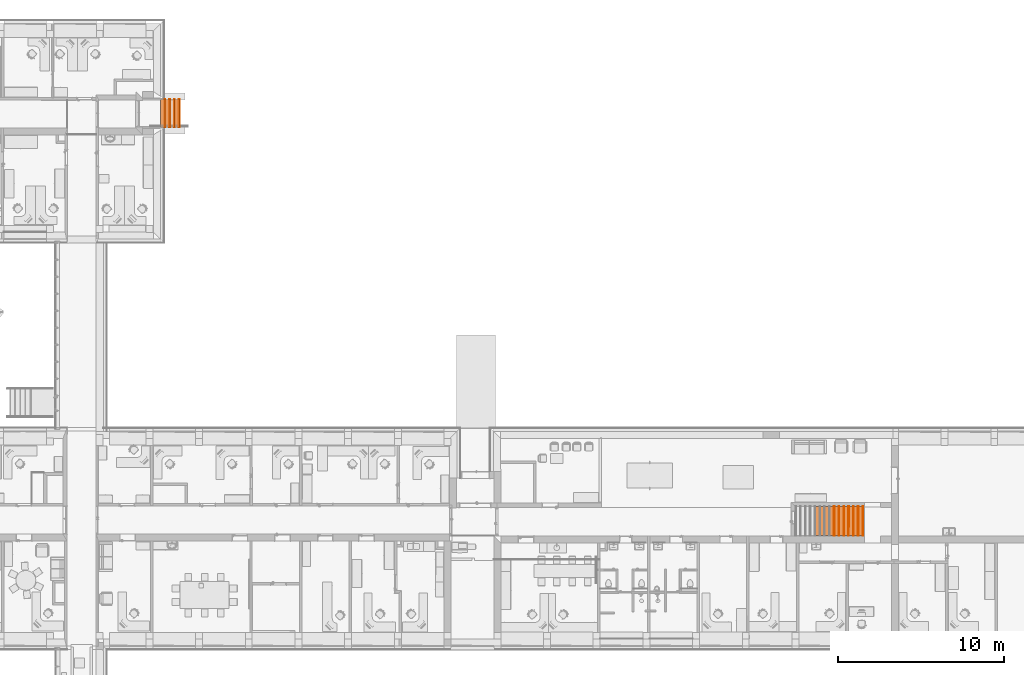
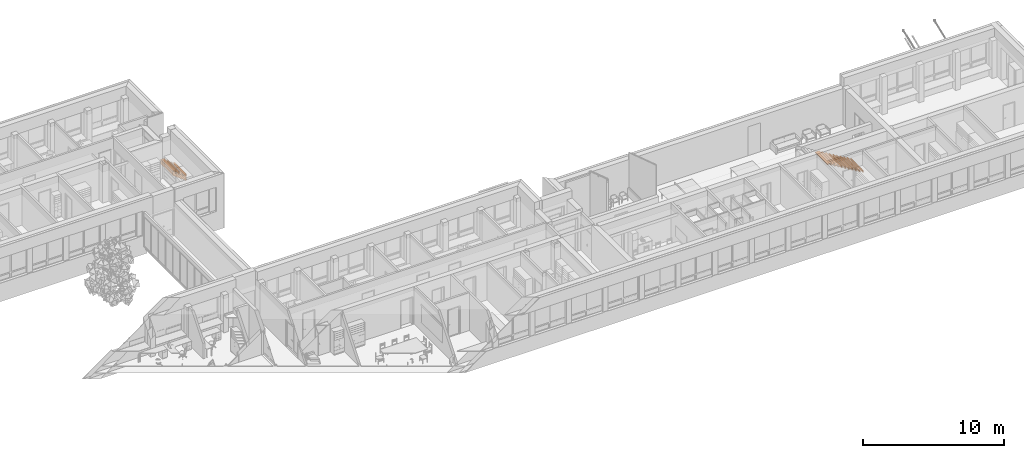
# One storey, part 193 of 194: 25 proxies, 2 elements without a shape of their own.
"""IFC2X3 building model written with IfcOpenShell, lengths in millimetres."""

from ifc_helpers import new_model, entity, si_unit, converted_unit, derived_unit, money_unit, direction, frame, origin_with_axes, place, context, subcontext, project, spatial, faceted_brep, material, type_object, element, aggregate, save


model = new_model("IFC2X3")

# Units and contexts
model_context = context("Model", 3, precision=1e-05, world=origin_with_axes(), true_north=direction((0.0, 1.0)))
body_context = subcontext(model_context, "Body", "Model", "MODEL_VIEW")
ifc_project = project(units=[si_unit("LENGTHUNIT", "METRE", prefix="MILLI"), si_unit("AREAUNIT", "SQUARE_METRE"), si_unit("VOLUMEUNIT", "CUBIC_METRE"), converted_unit("PLANEANGLEUNIT", "DEGREE", entity("IfcPlaneAngleMeasure", 0.0174532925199), si_unit("PLANEANGLEUNIT", "RADIAN"), dimensions=[0, 0, 0, 0, 0, 0, 0]), si_unit("SOLIDANGLEUNIT", "STERADIAN"), money_unit("EUR"), converted_unit("TIMEUNIT", "Year", entity("IfcTimeMeasure", 31556926.0), si_unit("TIMEUNIT", "SECOND"), dimensions=[0, 0, 1, 0, 0, 0, 0]), si_unit("MASSUNIT", "GRAM", prefix="KILO"), si_unit("THERMODYNAMICTEMPERATUREUNIT", "DEGREE_CELSIUS"), si_unit("LUMINOUSINTENSITYUNIT", "LUMEN"), si_unit("ENERGYUNIT", "JOULE", prefix="MEGA"), derived_unit("THERMALCONDUCTANCEUNIT", [(si_unit("POWERUNIT", "WATT"), 1), (si_unit("LENGTHUNIT", "METRE"), -1), (si_unit("THERMODYNAMICTEMPERATUREUNIT", "KELVIN"), -1)]), derived_unit("SPECIFICHEATCAPACITYUNIT", [(si_unit("ENERGYUNIT", "JOULE"), 1), (si_unit("MASSUNIT", "GRAM", prefix="KILO"), -1), (si_unit("THERMODYNAMICTEMPERATUREUNIT", "KELVIN"), -1)]), derived_unit("MASSDENSITYUNIT", [(si_unit("MASSUNIT", "GRAM", prefix="KILO"), 1), (si_unit("VOLUMEUNIT", "CUBIC_METRE"), -1)])], contexts=[model_context])

# Site, building, storey
site_placement = place(None, origin_with_axes())
site = spatial("IfcSite", under=ifc_project, at=site_placement, Name="Site", CompositionType="ELEMENT")
building_placement = place(site_placement, origin_with_axes())
building = spatial("IfcBuilding", under=site, at=building_placement, Name="Building", CompositionType="ELEMENT")
storey_placement = place(building_placement, frame((0.0, 0.0, 3000.0), z_axis=(0.0, 0.0, 1.0), x_axis=(1.0, 0.0, 0.0)))
storey = spatial("IfcBuildingStorey", under=building, at=storey_placement, Name="2 KORRUS", CompositionType="ELEMENT", Elevation=3000.0)

# Stair, proxy
stair_1_placement = place(storey_placement, frame((44781.1711957, 65661.0237237, -870.0), z_axis=(0.0, 0.0, 1.0), x_axis=(1.0, 0.0, 0.0)))
stair_1 = element("IfcStair", 1, at=stair_1_placement, inside=storey, Name="STAIR - 002", ShapeType="NOTDEFINED")
ifc_material = material(Name="Betoon - Ol.Olev konstruktsioon")
building_element_proxy_type_1 = type_object("IfcBuildingElementProxyType", Name="BETOON TREPP", PredefinedType="NOTDEFINED")
proxy_1_placement = place(stair_1_placement, origin_with_axes())
proxy_1 = element("IfcBuildingElementProxy", 2, at=proxy_1_placement, type_object=building_element_proxy_type_1, material=ifc_material, Name="Betoon - Ol.Olev konstruktsioon;  Objekti nimi:", context=body_context, shape_type="Brep", body=[
    faceted_brep([(0.0, 0.0, -70.0), (0.0, 0.0, -381.247973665), (0.395978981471, 1699.99995388, -381.247973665), (0.395978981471, 1699.99995388, -70.0), (-96.6666640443, 0.0225164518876, -308.747973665), (-48.3333320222, 0.0112582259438, -344.997973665), (-81.6639626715, 0.0190191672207, -70.0), (-23.3850148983, 0.00544626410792, 147.5), (-371.663954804, 0.0865685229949, 147.5), (-313.385007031, 0.0729956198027, 365.0), (-661.663946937, 0.154117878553, 365.0), (-603.384999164, 0.140544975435, 582.5), (-951.66393907, 0.221669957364, 582.5), (-893.384991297, 0.20809511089, 800.0), (-1159.99996853, 0.270197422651, 800.0), (-1159.99996853, 0.270185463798, 488.752026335), (-1111.66663651, 0.258927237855, 452.502026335), (-1063.33330449, 0.247669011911, 416.252026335), (-1014.99997247, 0.236410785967, 380.002026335), (-966.666640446, 0.225152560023, 343.752026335), (-918.333308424, 0.213894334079, 307.502026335), (-869.999976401, 0.202636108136, 271.252026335), (-821.666644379, 0.191377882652, 235.002026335), (-773.333312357, 0.180119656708, 198.752026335), (-724.999980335, 0.168861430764, 162.502026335), (-676.666648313, 0.157603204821, 126.252026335), (-628.333316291, 0.146344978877, 90.0020263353), (-579.999984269, 0.135086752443, 53.7520263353), (-531.666652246, 0.1238285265, 17.5020263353), (-483.333320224, 0.112570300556, -18.7479736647), (-434.999988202, 0.101312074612, -54.9979736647), (-386.66665618, 0.0900538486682, -91.2479736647), (-338.333324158, 0.0787956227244, -127.497973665), (-289.999992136, 0.0675373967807, -163.747973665), (-241.666660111, 0.0562911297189, -199.997973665), (-193.333328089, 0.0450329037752, -236.247973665), (-144.999996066, 0.0337746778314, -272.497973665), (-47.9373530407, 1700.01121211, -344.997973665), (-96.4686745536, 850.022493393, -308.747973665), (-1062.93732551, 1700.24763485, 416.252026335), (-1111.27065753, 1700.25889308, 452.502026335), (-1159.60398955, 1700.27015131, 488.752026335), (-1159.60398955, 1700.27015131, 800.0), (-892.989012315, 1700.20804899, 800.0), (-951.267960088, 1700.22162384, 582.5), (-602.989020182, 1700.14049964, 582.5), (-661.267967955, 1700.15407448, 365.0), (-312.989028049, 1700.07295089, 365.0), (-371.267975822, 1700.08652726, 147.5), (-22.9890359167, 1700.00540089, 147.5), (-81.2679836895, 1700.01897564, -70.0), (-96.2706850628, 1700.02247033, -308.747973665), (-144.604017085, 1700.03372856, -272.497973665), (-192.937349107, 1700.04498679, -236.247973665), (-241.270681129, 1700.05624501, -199.997973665), (-289.604013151, 1700.06750324, -163.747973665), (-337.937345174, 1700.07876146, -127.497973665), (-386.270677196, 1700.09001969, -91.2479736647), (-434.604009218, 1700.10127792, -54.9979736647), (-482.93734124, 1700.11253614, -18.7479736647), (-531.270673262, 1700.12379437, 17.5020263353), (-579.604005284, 1700.13505259, 53.7520263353), (-627.937337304, 1700.14632019, 90.0020263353), (-676.270669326, 1700.15757842, 126.252026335), (-724.604001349, 1700.16883664, 162.502026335), (-772.937333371, 1700.18009487, 198.752026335), (-821.270665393, 1700.1913531, 235.002026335), (-869.603997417, 1700.20260195, 271.252026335), (-917.937329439, 1700.21386018, 307.502026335), (-966.270661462, 1700.2251184, 343.752026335), (-1014.60399348, 1700.23637663, 380.002026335), (-1063.135315, 850.247651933, 416.252026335), (-966.468650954, 850.225135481, 343.752026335), (-869.801986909, 850.202619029, 271.252026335), (-773.135322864, 850.180107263, 198.752026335), (-676.46865882, 850.157590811, 126.252026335), (-579.801994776, 850.135069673, 53.7520263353), (-483.135330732, 850.112553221, -18.7479736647), (-386.468666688, 850.090036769, -91.2479736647), (-289.802002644, 850.067520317, -163.747973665), (-193.135338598, 850.045009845, -236.247973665)], [[[0, 1, 2, 3]], [[4, 5, 1, 0, 6, 7, 8, 9, 10, 11, 12, 13, 14, 15, 16, 17, 18, 19, 20, 21, 22, 23, 24, 25, 26, 27, 28, 29, 30, 31, 32, 33, 34, 35, 36]], [[37, 2, 1, 5, 38]], [[39, 40, 41, 42, 43, 44, 45, 46, 47, 48, 49, 50, 3, 2, 37, 51, 52, 53, 54, 55, 56, 57, 58, 59, 60, 61, 62, 63, 64, 65, 66, 67, 68, 69, 70]], [[50, 6, 0, 3]], [[38, 5, 4]], [[7, 6, 50, 49]], [[8, 7, 49, 48]], [[9, 8, 48, 47]], [[10, 9, 47, 46]], [[11, 10, 46, 45]], [[12, 11, 45, 44]], [[13, 12, 44, 43]], [[42, 14, 13, 43]], [[42, 41, 15, 14]], [[15, 41, 40, 71, 16]], [[71, 17, 16]], [[71, 18, 17]], [[72, 19, 18]], [[72, 20, 19]], [[73, 21, 20]], [[73, 22, 21]], [[74, 23, 22]], [[74, 24, 23]], [[75, 25, 24]], [[75, 26, 25]], [[76, 27, 26]], [[76, 28, 27]], [[77, 29, 28]], [[77, 30, 29]], [[78, 31, 30]], [[78, 32, 31]], [[79, 33, 32]], [[79, 34, 33]], [[80, 35, 34]], [[80, 36, 35]], [[38, 4, 36]], [[38, 51, 37]], [[71, 40, 39]], [[38, 52, 51]], [[80, 53, 52]], [[80, 54, 53]], [[79, 55, 54]], [[79, 56, 55]], [[78, 57, 56]], [[78, 58, 57]], [[77, 59, 58]], [[77, 60, 59]], [[76, 61, 60]], [[76, 62, 61]], [[75, 63, 62]], [[75, 64, 63]], [[74, 65, 64]], [[74, 66, 65]], [[73, 67, 66]], [[73, 68, 67]], [[72, 69, 68]], [[72, 70, 69]], [[71, 39, 70]], [[70, 72, 18, 71]], [[68, 73, 20, 72]], [[66, 74, 22, 73]], [[74, 64, 75, 24]], [[75, 62, 76, 26]], [[76, 60, 77, 28]], [[77, 58, 78, 30]], [[56, 79, 32, 78]], [[54, 80, 34, 79]], [[80, 52, 38, 36]]]),
])

# Stair, proxies
stair_2_placement = place(storey_placement, frame((86050.0204876, 42780.0240656, 0.0), z_axis=(0.0, 0.0, 1.0), x_axis=(-1.0, 0.0, 0.0)))
stair_2 = element("IfcStair", 3, at=stair_2_placement, inside=storey, Name="STAIR - 001", ShapeType="NOTDEFINED")
building_element_proxy_type_2 = type_object("IfcBuildingElementProxyType", Name="SF RISER - 020", PredefinedType="NOTDEFINED")
proxy_2_placement = place(stair_2_placement, frame((0.701614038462, 879.999720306, 111.8), z_axis=(0.0, 0.0, 1.0), x_axis=(0.000797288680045, 0.999999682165, 0.0)))
proxy_2 = element("IfcBuildingElementProxy", 4, at=proxy_2_placement, type_object=building_element_proxy_type_2, material=ifc_material, Name=";  Objekti nimi: Riser 22", context=body_context, shape_type="Brep", body=[
    faceted_brep([(880.0, 0.0, 0.0), (-880.000000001, 1.13686837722e-10, 0.0), (-880.0, -10.3527618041, 0.0), (879.999999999, -10.352761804, 0.0), (880.0, -29.9567197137, -111.8), (-880.000000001, -29.9567197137, -111.8), (-880.000000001, -40.3094815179, -111.8), (879.999999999, -40.3094815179, -111.8)], [[[0, 1, 2, 3]], [[4, 5, 1, 0]], [[1, 5, 6, 2]], [[3, 2, 6, 7]], [[0, 3, 7, 4]], [[7, 6, 5, 4]]]),
])
proxy_3_placement = place(stair_2_placement, frame((290.701521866, 879.768506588, 283.6), z_axis=(0.0, 0.0, 1.0), x_axis=(0.000797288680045, 0.999999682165, 0.0)))
proxy_3 = element("IfcBuildingElementProxy", 5, at=proxy_3_placement, type_object=building_element_proxy_type_2, material=ifc_material, Name=";  Objekti nimi: Riser 22", context=body_context, shape_type="Brep", body=[
    faceted_brep([(880.0, 0.0, 0.0), (-880.0, 1.13686837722e-10, 0.0), (-879.999999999, -10.3527618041, 0.0), (880.0, -10.352761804, 0.0), (880.0, -29.9567197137, -111.8), (-880.0, -29.9567197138, -111.8), (-880.0, -40.3094815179, -111.8), (879.999999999, -40.3094815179, -111.8)], [[[0, 1, 2, 3]], [[4, 5, 1, 0]], [[1, 5, 6, 2]], [[3, 2, 6, 7]], [[0, 3, 7, 4]], [[7, 6, 5, 4]]]),
])
proxy_4_placement = place(stair_2_placement, frame((580.701429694, 879.537292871, 455.4), z_axis=(0.0, 0.0, 1.0), x_axis=(0.000797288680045, 0.999999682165, 0.0)))
proxy_4 = element("IfcBuildingElementProxy", 6, at=proxy_4_placement, type_object=building_element_proxy_type_2, material=ifc_material, Name=";  Objekti nimi: Riser 22", context=body_context, shape_type="Brep", body=[
    faceted_brep([(880.000000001, 0.0, 0.0), (-879.999999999, 0.0, 0.0), (-879.999999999, -10.352761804, 0.0), (880.000000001, -10.352761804, 0.0), (880.0, -29.9567197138, -111.8), (-879.999999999, -29.9567197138, -111.8), (-879.999999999, -40.3094815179, -111.8), (880.0, -40.3094815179, -111.8)], [[[0, 1, 2, 3]], [[4, 5, 1, 0]], [[1, 5, 6, 2]], [[3, 2, 6, 7]], [[0, 3, 7, 4]], [[7, 6, 5, 4]]]),
])
proxy_5_placement = place(stair_2_placement, frame((870.701337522, 879.306079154, 627.2), z_axis=(0.0, 0.0, 1.0), x_axis=(0.000797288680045, 0.999999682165, 0.0)))
proxy_5 = element("IfcBuildingElementProxy", 7, at=proxy_5_placement, type_object=building_element_proxy_type_2, material=ifc_material, Name=";  Objekti nimi: Riser 22", context=body_context, shape_type="Brep", body=[
    faceted_brep([(880.000000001, -1.13686837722e-10, 0.0), (-880.0, -1.13686837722e-10, 0.0), (-880.0, -10.3527618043, 0.0), (880.000000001, -10.3527618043, 0.0), (880.0, -29.9567197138, -111.8), (-879.999999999, -29.9567197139, -111.8), (-879.999999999, -40.309481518, -111.8), (880.0, -40.3094815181, -111.8)], [[[0, 1, 2, 3]], [[4, 5, 1, 0]], [[1, 5, 6, 2]], [[3, 2, 6, 7]], [[0, 3, 7, 4]], [[7, 6, 5, 4]]]),
])
proxy_6_placement = place(stair_2_placement, frame((1160.70124535, 879.074865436, 799.0), z_axis=(0.0, 0.0, 1.0), x_axis=(0.000797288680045, 0.999999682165, 0.0)))
proxy_6 = element("IfcBuildingElementProxy", 8, at=proxy_6_placement, type_object=building_element_proxy_type_2, material=ifc_material, Name=";  Objekti nimi: Riser 22", context=body_context, shape_type="Brep", body=[
    faceted_brep([(880.000000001, 0.0, 0.0), (-880.000000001, 1.13686837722e-10, 0.0), (-880.0, -10.3527618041, 0.0), (879.999999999, -10.352761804, 0.0), (880.0, -29.9567197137, -111.8), (-880.000000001, -29.9567197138, -111.8), (-880.000000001, -40.3094815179, -111.8), (880.0, -40.3094815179, -111.8)], [[[0, 1, 2, 3]], [[4, 5, 1, 0]], [[1, 5, 6, 2]], [[3, 2, 6, 7]], [[0, 3, 7, 4]], [[7, 6, 5, 4]]]),
])
proxy_7_placement = place(stair_2_placement, frame((1450.70115318, 878.84365172, 970.8), z_axis=(0.0, 0.0, 1.0), x_axis=(0.000797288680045, 0.999999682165, 0.0)))
proxy_7 = element("IfcBuildingElementProxy", 9, at=proxy_7_placement, type_object=building_element_proxy_type_2, material=ifc_material, Name=";  Objekti nimi: Riser 22", context=body_context, shape_type="Brep", body=[
    faceted_brep([(879.999999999, 1.13686837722e-10, 0.0), (-880.000000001, 1.13686837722e-10, 0.0), (-880.0, -10.352761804, 0.0), (879.999999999, -10.352761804, 0.0), (880.0, -29.9567197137, -111.8), (-880.000000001, -29.9567197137, -111.8), (-880.000000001, -40.3094815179, -111.8), (879.999999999, -40.3094815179, -111.8)], [[[0, 1, 2, 3]], [[4, 5, 1, 0]], [[1, 5, 6, 2]], [[3, 2, 6, 7]], [[0, 3, 7, 4]], [[7, 6, 5, 4]]]),
])
proxy_8_placement = place(stair_2_placement, frame((1740.70106101, 878.612438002, 1142.6), z_axis=(0.0, 0.0, 1.0), x_axis=(0.000797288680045, 0.999999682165, 0.0)))
proxy_8 = element("IfcBuildingElementProxy", 10, at=proxy_8_placement, type_object=building_element_proxy_type_2, material=ifc_material, Name=";  Objekti nimi: Riser 22", context=body_context, shape_type="Brep", body=[
    faceted_brep([(880.0, -1.13686837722e-10, 0.0), (-880.0, -1.13686837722e-10, 0.0), (-879.999999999, -10.3527618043, 0.0), (880.0, -10.3527618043, 0.0), (880.0, -29.9567197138, -111.8), (-880.0, -29.9567197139, -111.8), (-880.0, -40.3094815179, -111.8), (879.999999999, -40.309481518, -111.8)], [[[0, 1, 2, 3]], [[4, 5, 1, 0]], [[1, 5, 6, 2]], [[3, 2, 6, 7]], [[0, 3, 7, 4]], [[7, 6, 5, 4]]]),
])
building_element_proxy_type_3 = type_object("IfcBuildingElementProxyType", Name="SF TREAD - 020", PredefinedType="NOTDEFINED")
proxy_9_placement = place(stair_2_placement, frame((0.701614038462, 879.999720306, 171.8), z_axis=(0.0, 0.0, 1.0), x_axis=(0.000797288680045, 0.999999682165, 0.0)))
proxy_9 = element("IfcBuildingElementProxy", 11, at=proxy_9_placement, type_object=building_element_proxy_type_3, material=ifc_material, Name=";  Objekti nimi: Tread 22", context=body_context, shape_type="Brep", body=[
    faceted_brep([(-880.000000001, -346.38642038, -70.0), (-880.000000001, 1.13686837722e-10, -70.0), (880.0, 0.0, -70.0), (879.999999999, -346.386428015, -70.0), (839.999999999, -40.0, -70.0), (-840.0, -40.0, -70.0), (-840.000000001, -306.386420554, -70.0), (839.999999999, -306.386427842, -70.0), (-880.000000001, 1.13686837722e-10, 0.0), (-880.00000014, -346.38642038, -60.0), (-880.0, -330.309468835, 0.0), (880.0, 0.0, 0.0), (879.999999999, -330.309468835, 0.0), (879.999999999, -346.38642038, -60.0), (839.999999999, -40.0, -60.0), (-840.0, -40.0, -60.0), (-840.000000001, -306.386420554, -60.0), (839.999999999, -306.386427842, -60.0)], [[[0, 1, 2, 3], [4, 5, 6, 7]], [[8, 1, 0, 9, 10]], [[11, 2, 1, 8]], [[12, 13, 3, 2, 11]], [[0, 3, 13, 9]], [[4, 14, 15, 5]], [[5, 15, 16, 6]], [[6, 16, 17, 7]], [[7, 17, 14, 4]], [[10, 9, 13, 12]], [[12, 11, 8, 10]], [[15, 14, 17, 16]]]),
])
proxy_10_placement = place(stair_2_placement, frame((290.701521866, 879.768506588, 343.6), z_axis=(0.0, 0.0, 1.0), x_axis=(0.000797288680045, 0.999999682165, 0.0)))
proxy_10 = element("IfcBuildingElementProxy", 12, at=proxy_10_placement, type_object=building_element_proxy_type_3, material=ifc_material, Name=";  Objekti nimi: Tread 22", context=body_context, shape_type="Brep", body=[
    faceted_brep([(-880.0, -346.386443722, -70.0), (-880.0, 1.13686837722e-10, -70.0), (880.0, 0.0, -70.0), (880.0, -346.386425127, -70.0), (840.0, -40.0, -70.0), (-840.0, -40.0, -70.0), (-839.999999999, -306.386443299, -70.0), (840.0, -306.386425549, -70.0), (-880.0, 1.13686837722e-10, 0.0), (-880.0, -346.386443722, -60.0), (-880.0, -330.309492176, 0.0), (880.0, 0.0, 0.0), (879.999999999, -330.309492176, 0.0), (880.00000034, -346.386443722, -60.0), (840.0, -40.0, -60.0), (-840.0, -40.0, -60.0), (-839.999999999, -306.386443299, -60.0), (840.0, -306.386425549, -60.0)], [[[0, 1, 2, 3], [4, 5, 6, 7]], [[8, 1, 0, 9, 10]], [[11, 2, 1, 8]], [[12, 13, 3, 2, 11]], [[0, 3, 13, 9]], [[4, 14, 15, 5]], [[5, 15, 16, 6]], [[6, 16, 17, 7]], [[7, 17, 14, 4]], [[10, 9, 13, 12]], [[12, 11, 8, 10]], [[15, 14, 17, 16]]]),
])
proxy_11_placement = place(stair_2_placement, frame((580.701429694, 879.537292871, 515.4), z_axis=(0.0, 0.0, 1.0), x_axis=(0.000797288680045, 0.999999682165, 0.0)))
proxy_11 = element("IfcBuildingElementProxy", 13, at=proxy_11_placement, type_object=building_element_proxy_type_3, material=ifc_material, Name=";  Objekti nimi: Tread 22", context=body_context, shape_type="Brep", body=[
    faceted_brep([(-879.999999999, -346.386445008, -70.0), (-879.999999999, 0.0, -70.0), (880.000000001, 0.0, -70.0), (880.0, -346.386426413, -70.0), (840.000000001, -40.0, -70.0), (-839.999999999, -40.0, -70.0), (-840.0, -306.386444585, -70.0), (840.000000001, -306.386426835, -70.0), (-879.999999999, 0.0, 0.0), (-879.999999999, -346.386445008, -60.0), (-879.999999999, -330.309493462, 0.0), (880.000000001, 0.0, 0.0), (880.0, -330.309493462, 0.0), (880.000000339, -346.386445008, -60.0), (840.000000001, -40.0, -60.0), (-839.999999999, -40.0, -60.0), (-840.0, -306.386444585, -60.0), (840.000000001, -306.386426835, -60.0)], [[[0, 1, 2, 3], [4, 5, 6, 7]], [[8, 1, 0, 9, 10]], [[11, 2, 1, 8]], [[12, 13, 3, 2, 11]], [[0, 3, 13, 9]], [[4, 14, 15, 5]], [[5, 15, 16, 6]], [[6, 16, 17, 7]], [[7, 17, 14, 4]], [[10, 9, 13, 12]], [[12, 11, 8, 10]], [[15, 14, 17, 16]]]),
])
proxy_12_placement = place(stair_2_placement, frame((870.701337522, 879.306079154, 687.2), z_axis=(0.0, 0.0, 1.0), x_axis=(0.000797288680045, 0.999999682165, 0.0)))
proxy_12 = element("IfcBuildingElementProxy", 14, at=proxy_12_placement, type_object=building_element_proxy_type_3, material=ifc_material, Name=";  Objekti nimi: Tread 22", context=body_context, shape_type="Brep", body=[
    faceted_brep([(-880.0, -346.386420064, -70.0), (-880.0, -1.13686837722e-10, -70.0), (880.000000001, -1.13686837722e-10, -70.0), (880.0, -346.386427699, -70.0), (840.0, -40.0000000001, -70.0), (-840.0, -40.0000000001, -70.0), (-840.0, -306.386420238, -70.0), (840.0, -306.386427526, -70.0), (-880.0, -1.13686837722e-10, 0.0), (-880.000000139, -346.386420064, -60.0), (-880.0, -330.309468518, 0.0), (880.000000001, -1.13686837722e-10, 0.0), (880.0, -330.309468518, 0.0), (879.999999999, -346.386420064, -60.0), (840.0, -40.0000000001, -60.0), (-840.0, -40.0000000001, -60.0), (-840.0, -306.386420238, -60.0), (840.0, -306.386427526, -60.0)], [[[0, 1, 2, 3], [4, 5, 6, 7]], [[8, 1, 0, 9, 10]], [[11, 2, 1, 8]], [[12, 13, 3, 2, 11]], [[0, 3, 13, 9]], [[4, 14, 15, 5]], [[5, 15, 16, 6]], [[6, 16, 17, 7]], [[7, 17, 14, 4]], [[10, 9, 13, 12]], [[12, 11, 8, 10]], [[15, 14, 17, 16]]]),
])
proxy_13_placement = place(stair_2_placement, frame((1160.70124535, 879.074865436, 859.0), z_axis=(0.0, 0.0, 1.0), x_axis=(0.000797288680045, 0.999999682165, 0.0)))
proxy_13 = element("IfcBuildingElementProxy", 15, at=proxy_13_placement, type_object=building_element_proxy_type_3, material=ifc_material, Name=";  Objekti nimi: Tread 22", context=body_context, shape_type="Brep", body=[
    faceted_brep([(-880.0, -346.386443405, -70.0), (-880.000000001, 1.13686837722e-10, -70.0), (880.000000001, 0.0, -70.0), (879.999999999, -346.38642481, -70.0), (839.999999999, -40.0, -70.0), (-840.0, -40.0, -70.0), (-840.0, -306.386442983, -70.0), (839.999999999, -306.386425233, -70.0), (-880.000000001, 1.13686837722e-10, 0.0), (-880.0, -346.386443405, -60.0), (-880.0, -330.309491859, 0.0), (880.000000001, 0.0, 0.0), (880.0, -330.309491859, 0.0), (880.00000034, -346.386443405, -60.0), (839.999999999, -40.0, -60.0), (-840.0, -40.0, -60.0), (-840.0, -306.386442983, -60.0), (839.999999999, -306.386425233, -60.0)], [[[0, 1, 2, 3], [4, 5, 6, 7]], [[8, 1, 0, 9, 10]], [[11, 2, 1, 8]], [[12, 13, 3, 2, 11]], [[0, 3, 13, 9]], [[4, 14, 15, 5]], [[5, 15, 16, 6]], [[6, 16, 17, 7]], [[7, 17, 14, 4]], [[10, 9, 13, 12]], [[12, 11, 8, 10]], [[15, 14, 17, 16]]]),
])
proxy_14_placement = place(stair_2_placement, frame((1450.70115318, 878.84365172, 1030.8), z_axis=(0.0, 0.0, 1.0), x_axis=(0.000797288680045, 0.999999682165, 0.0)))
proxy_14 = element("IfcBuildingElementProxy", 16, at=proxy_14_placement, type_object=building_element_proxy_type_3, material=ifc_material, Name=";  Objekti nimi: Tread 22", context=body_context, shape_type="Brep", body=[
    faceted_brep([(-880.000000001, -346.386444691, -70.0), (-880.000000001, 1.13686837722e-10, -70.0), (879.999999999, 1.13686837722e-10, -70.0), (879.999999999, -346.386426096, -70.0), (839.999999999, -40.0, -70.0), (-840.0, -40.0, -70.0), (-840.0, -306.386444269, -70.0), (839.999999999, -306.386426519, -70.0), (-880.000000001, 1.13686837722e-10, 0.0), (-880.000000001, -346.386444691, -60.0), (-880.0, -330.309493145, 0.0), (879.999999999, 1.13686837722e-10, 0.0), (879.999999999, -330.309493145, 0.0), (880.000000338, -346.386444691, -60.0), (839.999999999, -40.0, -60.0), (-840.0, -40.0, -60.0), (-840.0, -306.386444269, -60.0), (839.999999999, -306.386426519, -60.0)], [[[0, 1, 2, 3], [4, 5, 6, 7]], [[8, 1, 0, 9, 10]], [[11, 2, 1, 8]], [[12, 13, 3, 2, 11]], [[0, 3, 13, 9]], [[4, 14, 15, 5]], [[5, 15, 16, 6]], [[6, 16, 17, 7]], [[7, 17, 14, 4]], [[10, 9, 13, 12]], [[12, 11, 8, 10]], [[15, 14, 17, 16]]]),
])
proxy_15_placement = place(stair_2_placement, frame((1740.70106101, 878.612438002, 1202.6), z_axis=(0.0, 0.0, 1.0), x_axis=(0.000797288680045, 0.999999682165, 0.0)))
proxy_15 = element("IfcBuildingElementProxy", 17, at=proxy_15_placement, type_object=building_element_proxy_type_3, material=ifc_material, Name=";  Objekti nimi: Tread 22", context=body_context, shape_type="Brep", body=[
    faceted_brep([(-880.0, -346.386445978, -70.0), (-880.0, -1.13686837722e-10, -70.0), (880.0, -1.13686837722e-10, -70.0), (880.0, -346.386427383, -70.0), (840.0, -40.0000000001, -70.0), (-840.0, -40.0000000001, -70.0), (-839.999999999, -306.386445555, -70.0), (840.0, -306.386427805, -70.0), (-880.0, -1.13686837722e-10, 0.0), (-880.0, -346.386445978, -60.0), (-880.0, -330.309494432, 0.0), (880.0, -1.13686837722e-10, 0.0), (879.999999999, -330.309494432, 0.0), (880.000000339, -346.386445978, -60.0), (840.0, -40.0000000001, -60.0), (-840.0, -40.0000000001, -60.0), (-839.999999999, -306.386445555, -60.0), (840.0, -306.386427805, -60.0)], [[[0, 1, 2, 3], [4, 5, 6, 7]], [[8, 1, 0, 9, 10]], [[11, 2, 1, 8]], [[12, 13, 3, 2, 11]], [[0, 3, 13, 9]], [[4, 14, 15, 5]], [[5, 15, 16, 6]], [[6, 16, 17, 7]], [[7, 17, 14, 4]], [[10, 9, 13, 12]], [[12, 11, 8, 10]], [[15, 14, 17, 16]]]),
])
proxy_16_placement = place(stair_2_placement, frame((2030.70096883, 878.381224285, 1374.4), z_axis=(0.0, 0.0, 1.0), x_axis=(0.000797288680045, 0.999999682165, 0.0)))
proxy_16 = element("IfcBuildingElementProxy", 18, at=proxy_16_placement, type_object=building_element_proxy_type_3, material=ifc_material, Name=";  Objekti nimi: Tread 22", context=body_context, shape_type="Brep", body=[
    faceted_brep([(-879.999999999, -346.386443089, -70.0), (-879.999999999, 0.0, -70.0), (880.000000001, 0.0, -70.0), (880.0, -346.386424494, -70.0), (840.000000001, -40.0, -70.0), (-839.999999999, -40.0, -70.0), (-840.0, -306.386442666, -70.0), (840.000000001, -306.386424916, -70.0), (-879.999999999, 0.0, 0.0), (-879.999999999, -346.386443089, -60.0), (-879.999999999, -330.309491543, 0.0), (880.000000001, 0.0, 0.0), (880.000000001, -330.309491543, 0.0), (880.00000034, -346.386443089, -60.0), (840.000000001, -40.0, -60.0), (-839.999999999, -40.0, -60.0), (-840.0, -306.386442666, -60.0), (840.000000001, -306.386424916, -60.0)], [[[0, 1, 2, 3], [4, 5, 6, 7]], [[8, 1, 0, 9, 10]], [[11, 2, 1, 8]], [[12, 13, 3, 2, 11]], [[0, 3, 13, 9]], [[4, 14, 15, 5]], [[5, 15, 16, 6]], [[6, 16, 17, 7]], [[7, 17, 14, 4]], [[10, 9, 13, 12]], [[12, 11, 8, 10]], [[15, 14, 17, 16]]]),
])
proxy_17_placement = place(stair_2_placement, frame((2320.70087666, 878.150010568, 1546.2), z_axis=(0.0, 0.0, 1.0), x_axis=(0.000797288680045, 0.999999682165, 0.0)))
proxy_17 = element("IfcBuildingElementProxy", 19, at=proxy_17_placement, type_object=building_element_proxy_type_3, material=ifc_material, Name=";  Objekti nimi: Tread 22", context=body_context, shape_type="Brep", body=[
    faceted_brep([(-880.0, -346.386444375, -70.0), (-880.0, 1.13686837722e-10, -70.0), (880.000000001, 0.0, -70.0), (879.999999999, -346.38642578, -70.0), (840.0, -40.0, -70.0), (-840.0, -40.0, -70.0), (-840.0, -306.386443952, -70.0), (840.000000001, -306.386426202, -70.0), (-880.0, 1.13686837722e-10, 0.0), (-880.0, -346.386444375, -60.0), (-880.0, -330.309492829, 0.0), (880.000000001, 0.0, 0.0), (880.0, -330.309492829, 0.0), (880.00000034, -346.386444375, -60.0), (840.0, -40.0, -60.0), (-840.0, -40.0, -60.0), (-840.0, -306.386443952, -60.0), (840.000000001, -306.386426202, -60.0)], [[[0, 1, 2, 3], [4, 5, 6, 7]], [[8, 1, 0, 9, 10]], [[11, 2, 1, 8]], [[12, 13, 3, 2, 11]], [[0, 3, 13, 9]], [[4, 14, 15, 5]], [[5, 15, 16, 6]], [[6, 16, 17, 7]], [[7, 17, 14, 4]], [[10, 9, 13, 12]], [[12, 11, 8, 10]], [[15, 14, 17, 16]]]),
])
proxy_18_placement = place(stair_2_placement, frame((2610.70078449, 877.91879685, 1718.0), z_axis=(0.0, 0.0, 1.0), x_axis=(0.000797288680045, 0.999999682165, 0.0)))
proxy_18 = element("IfcBuildingElementProxy", 20, at=proxy_18_placement, type_object=building_element_proxy_type_3, material=ifc_material, Name=";  Objekti nimi: Tread 22", context=body_context, shape_type="Brep", body=[
    faceted_brep([(-880.0, -346.386445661, -70.0), (-880.000000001, 0.0, -70.0), (880.000000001, -1.13686837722e-10, -70.0), (879.999999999, -346.386427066, -70.0), (839.999999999, -40.0, -70.0), (-840.0, -40.0, -70.0), (-840.0, -306.386445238, -70.0), (839.999999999, -306.386427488, -70.0), (-880.000000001, 0.0, 0.0), (-880.0, -346.386445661, -60.0), (-880.0, -330.309494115, 0.0), (880.000000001, -1.13686837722e-10, 0.0), (880.0, -330.309494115, 0.0), (880.00000034, -346.386445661, -60.0), (839.999999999, -40.0, -60.0), (-840.0, -40.0, -60.0), (-840.0, -306.386445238, -60.0), (839.999999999, -306.386427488, -60.0)], [[[0, 1, 2, 3], [4, 5, 6, 7]], [[8, 1, 0, 9, 10]], [[11, 2, 1, 8]], [[12, 13, 3, 2, 11]], [[0, 3, 13, 9]], [[4, 14, 15, 5]], [[5, 15, 16, 6]], [[6, 16, 17, 7]], [[7, 17, 14, 4]], [[10, 9, 13, 12]], [[12, 11, 8, 10]], [[15, 14, 17, 16]]]),
])
aggregate(stair_2, [proxy_2, proxy_3, proxy_4, proxy_5, proxy_6, proxy_7, proxy_8, proxy_9, proxy_10, proxy_11, proxy_12, proxy_13, proxy_14, proxy_15, proxy_16, proxy_17, proxy_18])

# Proxy
building_element_proxy_type_4 = type_object("IfcBuildingElementProxyType", Name="SF RISER - 025", PredefinedType="NOTDEFINED")
proxy_19_placement = place(stair_1_placement, frame((0.197989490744, 849.999976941, 157.5), z_axis=(0.0, 0.0, 1.0), x_axis=(0.00023292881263, 0.999999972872, 0.0)))
proxy_19 = element("IfcBuildingElementProxy", 21, at=proxy_19_placement, type_object=building_element_proxy_type_4, material=ifc_material, Name=";  Objekti nimi: Riser 22", context=body_context, shape_type="Brep", body=[
    faceted_brep([(850.0, 0.0, 0.0), (850.0, 10.3527618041, 0.0), (-850.0, 10.3527618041, 0.0), (-850.0, 0.0, 0.0), (850.0, 42.2019978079, -157.5), (850.0, 52.554759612, -157.5), (-850.0, 52.554759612, -157.5), (-850.0, 42.2019978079, -157.5)], [[[0, 1, 2, 3]], [[0, 4, 5, 1]], [[1, 5, 6, 2]], [[3, 2, 6, 7]], [[4, 0, 3, 7]], [[5, 4, 7, 6]]]),
])

building_element_proxy_type_5 = type_object("IfcBuildingElementProxyType", Name="SF RISER - 026", PredefinedType="NOTDEFINED")
proxy_20_placement = place(stair_1_placement, frame((-289.802002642, 850.067526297, 375.0), z_axis=(0.0, 0.0, 1.0), x_axis=(0.00023292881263, 0.999999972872, 0.0)))
proxy_20 = element("IfcBuildingElementProxy", 22, at=proxy_20_placement, type_object=building_element_proxy_type_5, material=ifc_material, Name=";  Objekti nimi: Riser 22", context=body_context, shape_type="Brep", body=[
    faceted_brep([(850.0, 0.0, 0.0), (850.0, 10.3527618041, 0.0), (-850.0, 10.3527618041, 0.0), (-850.0, 0.0, 0.0), (850.0, 42.2019978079, -157.5), (850.0, 52.554759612, -157.5), (-850.0, 52.554759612, -157.5), (-850.0, 42.2019978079, -157.5)], [[[0, 1, 2, 3]], [[0, 4, 5, 1]], [[1, 5, 6, 2]], [[3, 2, 6, 7]], [[4, 0, 3, 7]], [[5, 4, 7, 6]]]),
])

building_element_proxy_type_6 = type_object("IfcBuildingElementProxyType", Name="SF RISER - 027", PredefinedType="NOTDEFINED")
proxy_21_placement = place(stair_1_placement, frame((-579.801994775, 850.135075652, 592.5), z_axis=(0.0, 0.0, 1.0), x_axis=(0.00023292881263, 0.999999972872, 0.0)))
proxy_21 = element("IfcBuildingElementProxy", 23, at=proxy_21_placement, type_object=building_element_proxy_type_6, material=ifc_material, Name=";  Objekti nimi: Riser 22", context=body_context, shape_type="Brep", body=[
    faceted_brep([(850.0, 0.0, 0.0), (850.0, 10.3527618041, 0.0), (-850.0, 10.3527618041, 0.0), (-850.0, 0.0, 0.0), (850.0, 42.2019978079, -157.5), (850.0, 52.554759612, -157.5), (-850.0, 52.554759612, -157.5), (-850.0, 42.2019978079, -157.5)], [[[0, 1, 2, 3]], [[0, 4, 5, 1]], [[1, 5, 6, 2]], [[3, 2, 6, 7]], [[4, 0, 3, 7]], [[5, 4, 7, 6]]]),
])

building_element_proxy_type_7 = type_object("IfcBuildingElementProxyType", Name="SF RISER - 028", PredefinedType="NOTDEFINED")
proxy_22_placement = place(stair_1_placement, frame((-869.801986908, 850.202625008, 810.0), z_axis=(0.0, 0.0, 1.0), x_axis=(0.00023292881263, 0.999999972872, 0.0)))
proxy_22 = element("IfcBuildingElementProxy", 24, at=proxy_22_placement, type_object=building_element_proxy_type_7, material=ifc_material, Name=";  Objekti nimi: Riser 22", context=body_context, shape_type="Brep", body=[
    faceted_brep([(850.0, 0.0, 0.0), (850.0, 10.3527618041, 0.0), (-850.0, 10.3527618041, 0.0), (-850.0, 0.0, 0.0), (850.0, 42.2019978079, -157.5), (850.0, 52.554759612, -157.5), (-850.0, 52.554759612, -157.5), (-850.0, 42.2019978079, -157.5)], [[[0, 1, 2, 3]], [[0, 4, 5, 1]], [[1, 5, 6, 2]], [[3, 2, 6, 7]], [[4, 0, 3, 7]], [[5, 4, 7, 6]]]),
])

building_element_proxy_type_8 = type_object("IfcBuildingElementProxyType", Name="SF TREAD - 025", PredefinedType="NOTDEFINED")
proxy_23_placement = place(stair_1_placement, frame((0.197989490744, 849.999976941, 217.5), z_axis=(0.0, 0.0, 1.0), x_axis=(0.00023292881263, 0.999999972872, 0.0)))
proxy_23 = element("IfcBuildingElementProxy", 25, at=proxy_23_placement, type_object=building_element_proxy_type_8, material=ifc_material, Name=";  Objekti nimi: Tread 22", context=body_context, shape_type="Brep", body=[
    faceted_brep([(-850.0, 358.631711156, -70.0), (850.0, 358.63170623, -70.0), (850.0, 0.0, -70.0), (-850.0, 0.0, -70.0), (810.0, 40.0, -70.0), (810.0, 318.631706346, -70.0), (-810.0, 318.63171104, -70.0), (-810.0, 40.0, -70.0), (-850.0, 358.631711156, -60.0), (850.000000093, 358.631711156, -60.0), (850.0, 342.55475961, 0.0), (850.0, 0.0, 0.0), (-850.0, 0.0, 0.0), (-850.0, 342.55475961, 0.0), (810.0, 40.0, -60.0), (810.0, 318.631706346, -60.0), (-810.0, 318.63171104, -60.0), (-810.0, 40.0, -60.0)], [[[0, 1, 2, 3], [4, 5, 6, 7]], [[0, 8, 9, 1]], [[10, 11, 2, 1, 9]], [[11, 12, 3, 2]], [[12, 13, 8, 0, 3]], [[5, 4, 14, 15]], [[6, 5, 15, 16]], [[7, 6, 16, 17]], [[4, 7, 17, 14]], [[13, 10, 9, 8]], [[10, 13, 12, 11]], [[17, 16, 15, 14]]]),
])

building_element_proxy_type_9 = type_object("IfcBuildingElementProxyType", Name="SF TREAD - 027", PredefinedType="NOTDEFINED")
proxy_24_placement = place(stair_1_placement, frame((-579.801994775, 850.135075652, 652.5), z_axis=(0.0, 0.0, 1.0), x_axis=(0.00023292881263, 0.999999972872, 0.0)))
proxy_24 = element("IfcBuildingElementProxy", 26, at=proxy_24_placement, type_object=building_element_proxy_type_9, material=ifc_material, Name=";  Objekti nimi: Tread 22", context=body_context, shape_type="Brep", body=[
    faceted_brep([(-850.0, 358.631711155, -70.0), (850.0, 358.631706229, -70.0), (850.0, 0.0, -70.0), (-850.0, 0.0, -70.0), (810.0, 40.0, -70.0), (810.0, 318.631706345, -70.0), (-810.0, 318.631711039, -70.0), (-810.0, 40.0, -70.0), (-850.0, 358.631711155, -60.0), (850.000000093, 358.631711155, -60.0), (850.0, 342.554759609, 0.0), (850.0, 0.0, 0.0), (-850.0, 0.0, 0.0), (-850.0, 342.554759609, 0.0), (810.0, 40.0, -60.0), (810.0, 318.631706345, -60.0), (-810.0, 318.631711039, -60.0), (-810.0, 40.0, -60.0)], [[[0, 1, 2, 3], [4, 5, 6, 7]], [[0, 8, 9, 1]], [[10, 11, 2, 1, 9]], [[11, 12, 3, 2]], [[12, 13, 8, 0, 3]], [[5, 4, 14, 15]], [[6, 5, 15, 16]], [[7, 6, 16, 17]], [[4, 7, 17, 14]], [[13, 10, 9, 8]], [[10, 13, 12, 11]], [[17, 16, 15, 14]]]),
])

building_element_proxy_type_10 = type_object("IfcBuildingElementProxyType", Name="SF TREAD - 028", PredefinedType="NOTDEFINED")
proxy_25_placement = place(stair_1_placement, frame((-869.801986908, 850.202625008, 870.0), z_axis=(0.0, 0.0, 1.0), x_axis=(0.00023292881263, 0.999999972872, 0.0)))
proxy_25 = element("IfcBuildingElementProxy", 27, at=proxy_25_placement, type_object=building_element_proxy_type_10, material=ifc_material, Name=";  Objekti nimi: Tread 22", context=body_context, shape_type="Brep", body=[
    faceted_brep([(850.0, 0.0, -70.0), (-850.0, 0.0, -70.0), (-850.0, 290.0, -70.0), (850.0, 290.0, -70.0), (810.0, 40.0, -70.0), (810.0, 250.0, -70.0), (-810.0, 250.0, -70.0), (-810.0, 40.0, -70.0), (850.0, 0.0, 0.0), (-850.0, 0.0, 0.0), (-850.0, 290.0, 0.0), (850.0, 290.0, 0.0), (810.0, 40.0, -60.0), (810.0, 250.0, -60.0), (-810.0, 250.0, -60.0), (-810.0, 40.0, -60.0)], [[[0, 1, 2, 3], [4, 5, 6, 7]], [[8, 9, 1, 0]], [[9, 10, 2, 1]], [[10, 11, 3, 2]], [[11, 8, 0, 3]], [[5, 4, 12, 13]], [[6, 5, 13, 14]], [[7, 6, 14, 15]], [[4, 7, 15, 12]], [[11, 10, 9, 8]], [[15, 14, 13, 12]]]),
])

aggregate(stair_1, [proxy_1, proxy_19, proxy_20, proxy_21, proxy_22, proxy_23, proxy_24, proxy_25])

save(model, "model.ifc")
